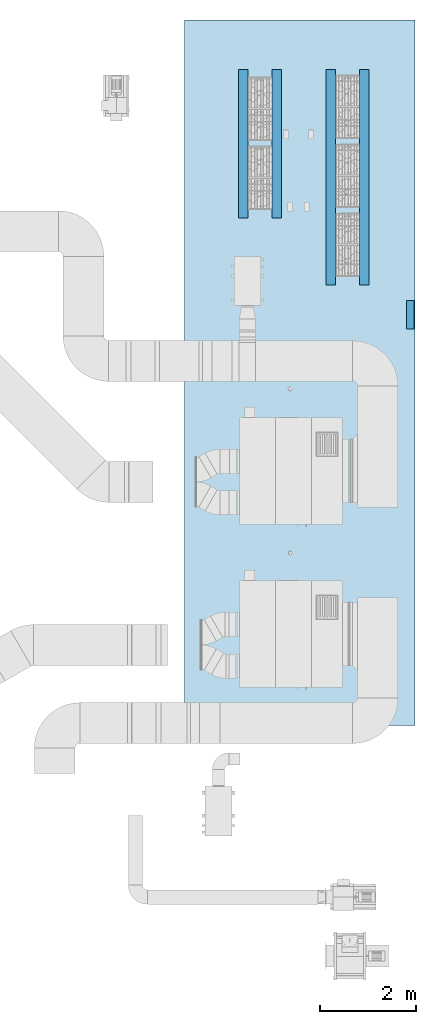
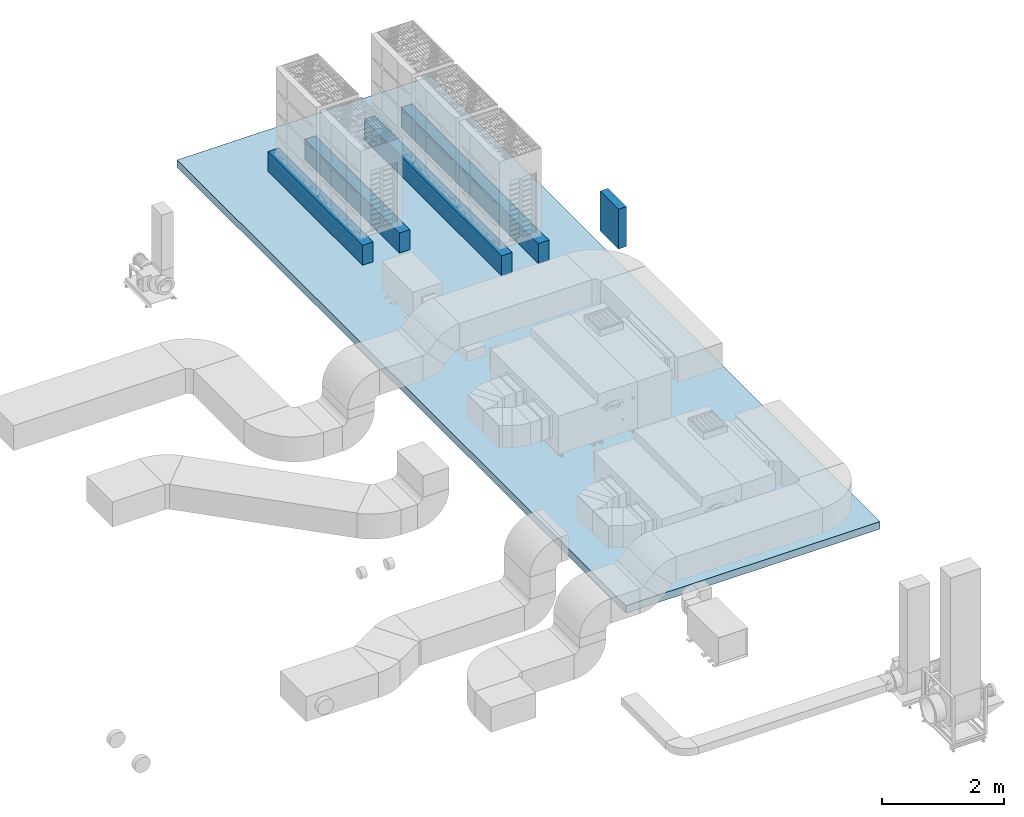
# One storey, part 1 of 10: 4 walls, 1 building element part, 1 slab.
"""IFC2X3 building model written with IfcOpenShell, lengths in millimetres."""

from ifc_helpers import new_model, entity, si_unit, converted_unit, derived_unit, direction, frame, frame_2d, origin, origin_2d_with_axis, place, context, subcontext, project, spatial, rectangle, extrude, source, transform, mapped, material, layer, layer_set, layer_usage, type_object, type_shapes, element, save


model = new_model("IFC2X3")

# Units and contexts
model_context = context("Model", 3, precision=0.01, world=origin(), true_north=direction((6.123233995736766e-17, 1.0)))
body_context = subcontext(model_context, "Body", "Model", "MODEL_VIEW")
ifc_project = project(units=[si_unit("LENGTHUNIT", "METRE", prefix="MILLI"), converted_unit("PLANEANGLEUNIT", "DEGREE", entity("IfcPlaneAngleMeasure", 0.017453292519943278), si_unit("PLANEANGLEUNIT", "RADIAN"), dimensions=[0, 0, 0, 0, 0, 0, 0]), si_unit("AREAUNIT", "SQUARE_METRE"), derived_unit("THERMALTRANSMITTANCEUNIT", [(si_unit("MASSUNIT", "GRAM", prefix="KILO"), 1), (si_unit("THERMODYNAMICTEMPERATUREUNIT", "KELVIN"), -1), (si_unit("TIMEUNIT", "SECOND"), -3)])], contexts=[model_context])

# Site, building, storey
site_placement = place(None, origin())
site = spatial("IfcSite", under=ifc_project, at=site_placement, Name="Default", CompositionType="ELEMENT")
building_placement = place(site_placement, origin())
building = spatial("IfcBuilding", under=site, at=building_placement, Name="Praça Pedro II, 1301 - Centro (Sul), Teresina - PI, 64001-100", CompositionType="ELEMENT")
storey_placement = place(building_placement, frame((0.0, 0.0, 9040.0)))
storey = spatial("IfcBuildingStorey", under=building, at=storey_placement, Name="LAJE TÉCNICA", CompositionType="ELEMENT", Elevation=9040.0)

# Slab
ifc_material_1 = material(Name="Material pré-definido de piso")
ifc_layer_1 = layer(ifc_material_1, 150.0)
ifc_layer_set_1 = layer_set([ifc_layer_1], Name="Piso:Genérico 150 mm")
ifc_layer_usage_1 = layer_usage(ifc_layer_set_1, "AXIS3", "POSITIVE", 0.0)
slab_type = type_object("IfcSlabType", Name="Piso:Genérico 150 mm", PredefinedType="FLOOR", material=ifc_layer_set_1)
slab_placement = place(storey_placement, origin())
element("IfcSlab", 1, at=slab_placement, inside=storey, type_object=slab_type, material=ifc_layer_usage_1, Name="Piso:Genérico 150 mm", ObjectType="Piso:Genérico 150 mm", PredefinedType="FLOOR", context=body_context, shape_type="SweptSolid", body=[
    extrude(rectangle(XDim=14718.604892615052, YDim=4811.196001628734, at=frame_2d((-4.547473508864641e-12, 2.2737367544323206e-12), x_axis=(1.0, 0.0))), frame((37614.1732606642, -58525.48061783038, 1081.0), z_axis=(0.0, 0.0, -1.0), x_axis=(0.0, 1.0, 0.0)), (0.0, 0.0, 1.0), 150.00000000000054),
])

# Walls
ifc_material_2 = material(Name="Material pré-definido de parede")
ifc_layer_2 = layer(ifc_material_2, 200.0)
ifc_layer_set_2 = layer_set([ifc_layer_2], Name="Parede básica:Genérico - 200 mm")
ifc_layer_usage_2 = layer_usage(ifc_layer_set_2, "AXIS2", "NEGATIVE", 100.0)
wall_type = type_object("IfcWallType", Name="Parede básica:Genérico - 200 mm", PredefinedType="STANDARD", material=ifc_layer_set_2)
wall_1_placement = place(storey_placement, frame((38961.36929736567, -56695.53032935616, 1081.0), z_axis=(0.0, 0.0, 1.0), x_axis=(0.0, 1.0, 0.0)))
element("IfcWallStandardCase", 2, at=wall_1_placement, inside=storey, type_object=wall_type, material=ifc_layer_usage_2, Name="Parede básica:Genérico - 200 mm", ObjectType="Parede básica:Genérico - 200 mm", context=body_context, shape_type="SweptSolid", body=[
    extrude(rectangle(XDim=4499.999999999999, YDim=200.0000000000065, at=frame_2d((2249.9999999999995, -1.0800249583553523e-12), x_axis=(-1.0, 0.0))), origin(), (0.0, 0.0, 1.0), 400.0),
])
ifc_layer_usage_3 = layer_usage(ifc_layer_set_2, "AXIS2", "NEGATIVE", 100.0)
wall_2_placement = place(storey_placement, frame((38261.36929736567, -56695.53032935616, 1081.0), z_axis=(0.0, 0.0, 1.0), x_axis=(0.0, 1.0, 0.0)))
element("IfcWallStandardCase", 3, at=wall_2_placement, inside=storey, type_object=wall_type, material=ifc_layer_usage_3, Name="Parede básica:Genérico - 200 mm", ObjectType="Parede básica:Genérico - 200 mm", context=body_context, shape_type="SweptSolid", body=[
    extrude(rectangle(XDim=4499.999999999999, YDim=199.99999999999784, at=frame_2d((2249.9999999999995, 1.0871303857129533e-12), x_axis=(-1.0, 0.0))), origin(), (0.0, 0.0, 1.0), 400.0),
])
ifc_layer_usage_4 = layer_usage(ifc_layer_set_2, "AXIS2", "NEGATIVE", 100.0)
wall_3_placement = place(storey_placement, frame((37136.36929736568, -55295.53032935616, 1081.0), z_axis=(0.0, 0.0, 1.0), x_axis=(0.0, 1.0, 0.0)))
element("IfcWallStandardCase", 4, at=wall_3_placement, inside=storey, type_object=wall_type, material=ifc_layer_usage_4, Name="Parede básica:Genérico - 200 mm", ObjectType="Parede básica:Genérico - 200 mm", context=body_context, shape_type="SweptSolid", body=[
    extrude(rectangle(XDim=3099.999999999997, YDim=199.99999999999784, at=frame_2d((1549.9999999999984, 7.105427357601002e-14), x_axis=(-1.0, 0.0))), origin(), (0.0, 0.0, 1.0), 400.0),
])
ifc_layer_usage_5 = layer_usage(ifc_layer_set_2, "AXIS2", "NEGATIVE", 100.0)
wall_4_placement = place(storey_placement, frame((36436.36929736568, -55295.53032935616, 1081.0), z_axis=(0.0, 0.0, 1.0), x_axis=(0.0, 1.0, 0.0)))
element("IfcWallStandardCase", 5, at=wall_4_placement, inside=storey, type_object=wall_type, material=ifc_layer_usage_5, Name="Parede básica:Genérico - 200 mm", ObjectType="Parede básica:Genérico - 200 mm", context=body_context, shape_type="SweptSolid", body=[
    extrude(rectangle(XDim=3098.250978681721, YDim=199.99999999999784, at=frame_2d((1549.1254893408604, 7.105427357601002e-14), x_axis=(-1.0, 0.0))), origin(), (0.0, 0.0, 1.0), 400.0),
])

# Building element part
ifc_material_3 = material(Name="<Unnamed>")
type_product = type_object("IfcTypeProduct", Name="QFACs:QFAC-1", material=ifc_material_3)
shared_shape = source(origin(), body_context, "Body", "SweptSolid", [
    extrude(rectangle(XDim=150.0, YDim=600.0, at=origin_2d_with_axis()), frame((0.0, 0.0, 0.0), z_axis=(0.0, 0.0, 1.0), x_axis=(-1.0, 0.0, 0.0)), (0.0, 0.0, 1.0), 800.0),
])
type_shapes(type_product, [shared_shape])
building_element_part_placement = place(storey_placement, frame((39918.92107154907, -57312.091735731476, 1581.0)))
element("IfcBuildingElementPart", 6, at=building_element_part_placement, inside=storey, type_object=type_product, material=ifc_material_3, Name="QFACs:QFAC-1", ObjectType="QFACs:QFAC-1", context=body_context, shape_type="MappedRepresentation", body=[
    mapped(shared_shape, transform((0.0, 0.0, 0.0), scale=1.0)),
])

save(model, "model.ifc")
